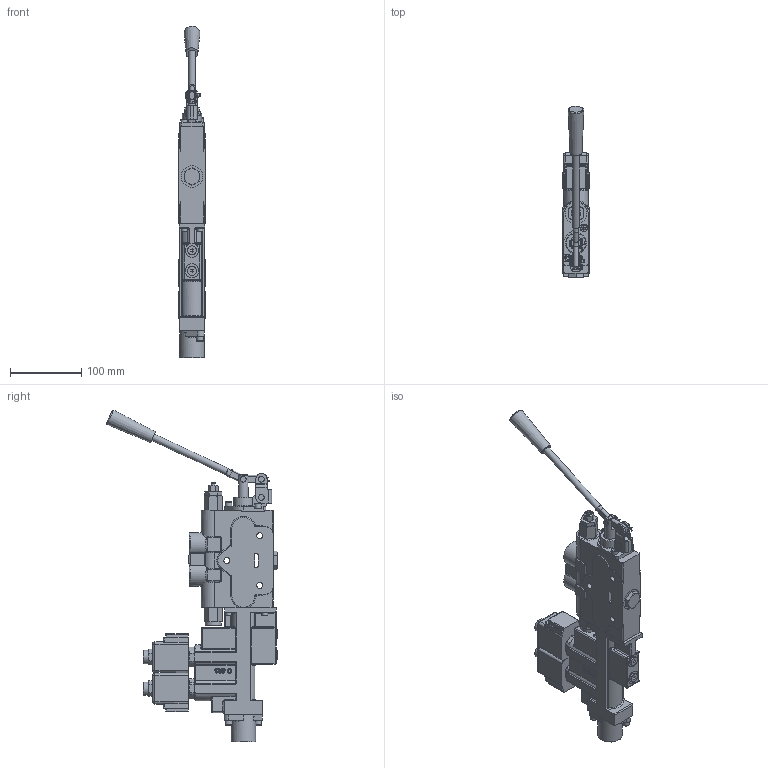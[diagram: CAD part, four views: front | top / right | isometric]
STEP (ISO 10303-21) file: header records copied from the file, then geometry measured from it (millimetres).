
FILE_DESCRIPTION((''),'2;1');
FILE_NAME('C:\Vault\Workspace\z_ShellModels\SV\SVH1BA1GB-Sxxx_Shell.stp','2012-03-15T08:43:01',('PetersW'),(''),'Autodesk Inventor 2012','Autodesk Inventor 2012','');
FILE_SCHEMA(('AUTOMOTIVE_DESIGN { 1 0 10303 214 1 1 1 1 }'));
Length unit declared in the file: inch
Products named in the file (1): Part7
Bounding box: 36.86 x 239.92 x 465.39 mm (x, y, z)
Volume: 1040288.8 mm3; surface area: 217635.3 mm2
Topology: 10 solids, 43 shells, 1951 faces, 4741 edges, 2919 vertices
Faces by surface type: plane 799, cylinder 558, torus 224, cone 168, bspline 144, sphere 58
Full cylindrical faces by diameter (mm): 2.381 x1, 2.388 x2, 3.454 x2, 3.683 x8, 3.861 x3, 4.661 x3, 4.75 x8, 4.801 x2, 4.826 x7, 4.978 x4, 5.207 x4, 6.096 x2, 6.35 x6, 6.731 x4, 7.137 x1, 7.797 x1, 7.798 x1, 7.925 x8, 7.95 x4, 8.331 x5, 8.433 x2, 8.801 x2, 9.525 x9, 9.931 x1, 10.439 x2, 11.125 x4, 11.328 x2, 12.7 x2, 12.764 x1, 14.275 x1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
Entity records: 60126 total; most frequent: CARTESIAN_POINT 14868, DIRECTION 9130, ORIENTED_EDGE 8540, EDGE_CURVE 4270, AXIS2_PLACEMENT_3D 3545, VERTEX_POINT 2765, EDGE_LOOP 2409, VECTOR 2040
